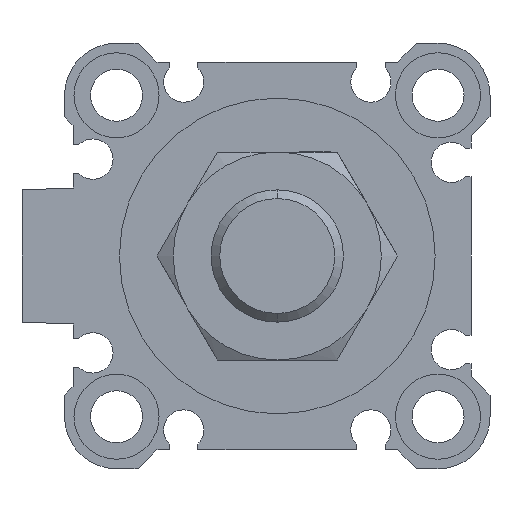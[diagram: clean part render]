
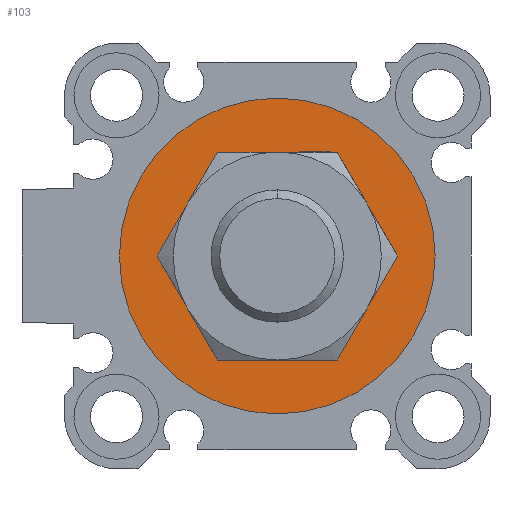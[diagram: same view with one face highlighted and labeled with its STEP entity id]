
A CAD part, left-side view. The second image highlights one B-rep face of the part: STEP entity #103.
In plain terms, the highlighted planar face has unit normal (-1, 0, 0).
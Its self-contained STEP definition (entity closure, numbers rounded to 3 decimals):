
#103 = ADVANCED_FACE ( 'NONE', ( #6502, #4365 ), #3189, .F. ) ;
#362 = CARTESIAN_POINT ( 'NONE',  ( 2.1, 0., 16.7 ) ) ;
#484 = DIRECTION ( 'NONE',  ( 1., 0., 0. ) ) ;
#554 = CARTESIAN_POINT ( 'NONE',  ( 2.1, 0., 0. ) ) ;
#579 = CARTESIAN_POINT ( 'NONE',  ( 2.1, 0., 0. ) ) ;
#845 = EDGE_LOOP ( 'NONE', ( #2289, #6043 ) ) ;
#861 = DIRECTION ( 'NONE',  ( 1., 0., 0. ) ) ;
#1191 = CIRCLE ( 'NONE', #4128, 10.5 ) ;
#1327 = CIRCLE ( 'NONE', #5845, 16.7 ) ;
#1572 = DIRECTION ( 'NONE',  ( 1., 0., 0. ) ) ;
#1592 = DIRECTION ( 'NONE',  ( 0., 0., -1. ) ) ;
#1832 = EDGE_CURVE ( 'NONE', #3857, #6022, #5187, .T. ) ;
#2203 = DIRECTION ( 'NONE',  ( 0., 1., 0. ) ) ;
#2289 = ORIENTED_EDGE ( 'NONE', *, *, #6151, .T. ) ;
#2477 = AXIS2_PLACEMENT_3D ( 'NONE', #554, #5356, #2203 ) ;
#2533 = CIRCLE ( 'NONE', #4117, 10.5 ) ;
#2567 = DIRECTION ( 'NONE',  ( 0., 0., -1. ) ) ;
#2740 = DIRECTION ( 'NONE',  ( 0., 0., -1. ) ) ;
#2944 = CARTESIAN_POINT ( 'NONE',  ( 2.1, 0., 0. ) ) ;
#3128 = CARTESIAN_POINT ( 'NONE',  ( 2.1, 0., 0. ) ) ;
#3147 = DIRECTION ( 'NONE',  ( 1., 0., 0. ) ) ;
#3189 = PLANE ( 'NONE',  #2477 ) ;
#3256 = EDGE_LOOP ( 'NONE', ( #4095, #4203 ) ) ;
#3326 = CARTESIAN_POINT ( 'NONE',  ( 2.1, 0., 10.5 ) ) ;
#3360 = VERTEX_POINT ( 'NONE', #3326 ) ;
#3857 = VERTEX_POINT ( 'NONE', #5648 ) ;
#4095 = ORIENTED_EDGE ( 'NONE', *, *, #4673, .F. ) ;
#4117 = AXIS2_PLACEMENT_3D ( 'NONE', #4299, #1572, #2740 ) ;
#4128 = AXIS2_PLACEMENT_3D ( 'NONE', #579, #3147, #1592 ) ;
#4203 = ORIENTED_EDGE ( 'NONE', *, *, #1832, .F. ) ;
#4299 = CARTESIAN_POINT ( 'NONE',  ( 2.1, 0., 0. ) ) ;
#4365 = FACE_BOUND ( 'NONE', #845, .T. ) ;
#4673 = EDGE_CURVE ( 'NONE', #6022, #3857, #1327, .T. ) ;
#5050 = CARTESIAN_POINT ( 'NONE',  ( 2.1, 0., -10.5 ) ) ;
#5104 = DIRECTION ( 'NONE',  ( 0., 0., -1. ) ) ;
#5187 = CIRCLE ( 'NONE', #7012, 16.7 ) ;
#5356 = DIRECTION ( 'NONE',  ( 1., 0., 0. ) ) ;
#5517 = VERTEX_POINT ( 'NONE', #5050 ) ;
#5648 = CARTESIAN_POINT ( 'NONE',  ( 2.1, 0., -16.7 ) ) ;
#5707 = EDGE_CURVE ( 'NONE', #5517, #3360, #2533, .T. ) ;
#5845 = AXIS2_PLACEMENT_3D ( 'NONE', #3128, #484, #2567 ) ;
#6022 = VERTEX_POINT ( 'NONE', #362 ) ;
#6043 = ORIENTED_EDGE ( 'NONE', *, *, #5707, .T. ) ;
#6151 = EDGE_CURVE ( 'NONE', #3360, #5517, #1191, .T. ) ;
#6502 = FACE_OUTER_BOUND ( 'NONE', #3256, .T. ) ;
#7012 = AXIS2_PLACEMENT_3D ( 'NONE', #2944, #861, #5104 ) ;
